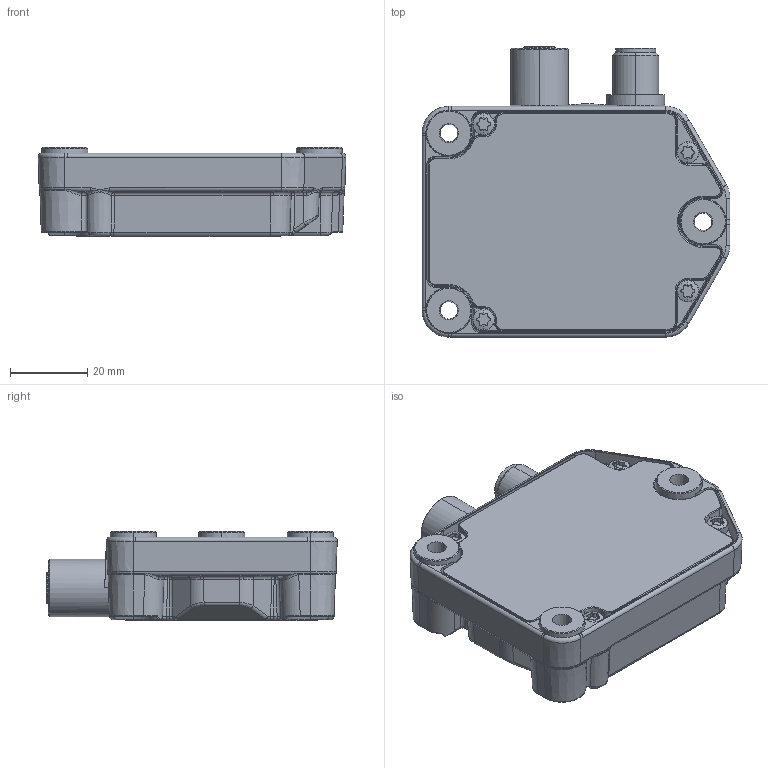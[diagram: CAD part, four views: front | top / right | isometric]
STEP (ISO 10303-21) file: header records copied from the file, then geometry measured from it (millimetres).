
FILE_DESCRIPTION (( 'STEP AP214' ), '1' );
FILE_NAME ('IN88_2xM12.STEP', '2016-05-12T08:53:28', ( 'admin' ), ( 'Microsoft' ), 'SwSTEP 2.0', 'SolidWorks 2013', '' );
FILE_SCHEMA (( 'AUTOMOTIVE_DESIGN' ));
Length unit declared in the file: millimetre
Products named in the file (22): N700848_Etikett_44x50~0; IN88_2xM12; H001649_O-Ring~0; G202523u001_Gruppe_Leiterplatte_bestückt~0; T207120i00_Roh-Leiterplatte~0; FCC_Kabel_neu; G202521u001_Gruppe_Leiterplatte_bestückt~0; G202521uXXX_Bestückungsteile~0; T207119i00_Roh-Leiterplatte~0; N511164_O-Ring_2,5x1,0~0; N700829_CANopen_-_Etikett_30x12~0; N630357_Zylinderschraube~1; N608870u001_Gehäuse_Guss~4_Deckel mit O Ring; N511172_O-Ring_7,5x1,0_NBR~0; N100471_M12_Stifteinsatz_5_pin_konf.~0; N135136_LED-Fenster~1; H001388_Buchseneinsatz,_M12,_5-pol~0; O-Ring_2,8x1,0~0; N630972_Zylinderschraube~0; N608871_Deckel~3_Dichtung im Deckel<Standard>; O-Ring_Gehäuse
Assembly tree (28 placements, depth 3):
  IN88_2xM12
    O-Ring_Gehäuse
    N630972_Zylinderschraube~0  x4
    H001388_Buchseneinsatz,_M12,_5-pol~0
    N100471_M12_Stifteinsatz_5_pin_konf.~0
    N511172_O-Ring_7,5x1,0_NBR~0  x2
    N630357_Zylinderschraube~1  x4
    N511164_O-Ring_2,5x1,0~0
    G202521u001_Gruppe_Leiterplatte_bestückt~0
      T207119i00_Roh-Leiterplatte~0
      G202521uXXX_Bestückungsteile~0
    FCC_Kabel_neu
    G202523u001_Gruppe_Leiterplatte_bestückt~0
      G202523u001_Gruppe_Leiterplatte_bestückt~0
      T207120i00_Roh-Leiterplatte~0
    H001649_O-Ring~0
    N700848_Etikett_44x50~0
    N608871_Deckel~3_Dichtung im Deckel<Standard>
    O-Ring_2,8x1,0~0
    N135136_LED-Fenster~1
    N608870u001_Gehäuse_Guss~4_Deckel mit O Ring
    N700829_CANopen_-_Etikett_30x12~0
Bounding box: 79.93 x 75.38 x 23.2 mm (x, y, z)
Volume: 54988.6 mm3; surface area: 56121.9 mm2
Topology: 221 solids, 221 shells, 6135 faces, 15647 edges, 9978 vertices
Faces by surface type: plane 4133, cylinder 1145, cone 305, torus 295, bspline 219, sphere 38
Entity records: 236257 total; most frequent: CARTESIAN_POINT 38817, ORIENTED_EDGE 30288, DIRECTION 29104, EDGE_CURVE 15144, LINE 11580, VECTOR 11580, VERTEX_POINT 9692, AXIS2_PLACEMENT_3D 8762
